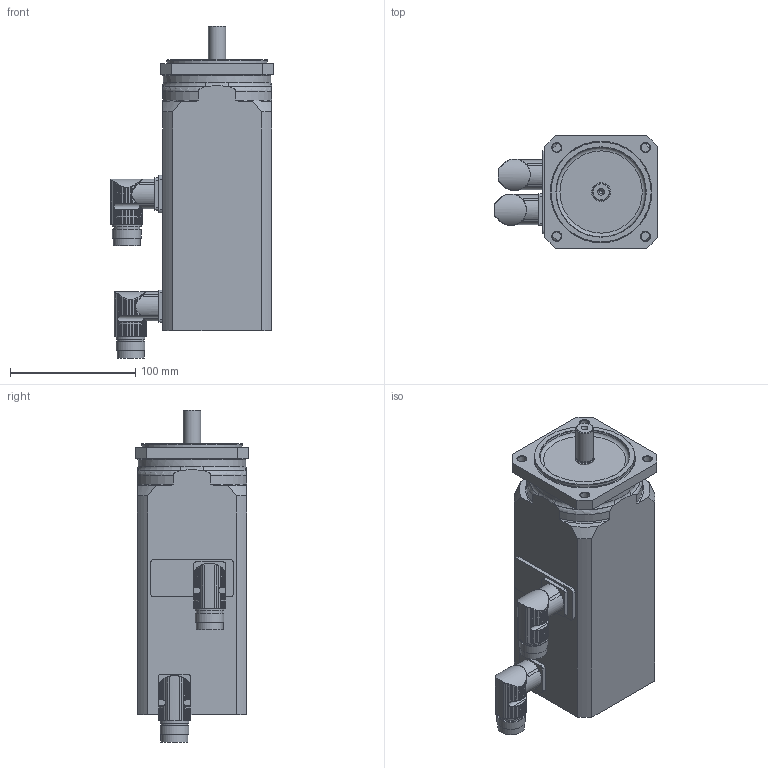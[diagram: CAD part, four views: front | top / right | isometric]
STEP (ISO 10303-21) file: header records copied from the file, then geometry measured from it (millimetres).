
FILE_DESCRIPTION(/* description */ (''),/* implementation_level */ '2;1');
FILE_NAME(/* name */ 'MR 7432-Ux-Nxxx-G##-A0D-MS',/* time_stamp */ '2007-07-13T09:50:00+01:00',/* author */ (''),/* organization */ ('ESR Pollmeier GmbH'),/* preprocessor_version */ 'ST-DEVELOPER v8',/* originating_system */ 'UNIGRAPHICS SOLUTIONS - UNIGRAPHICS 18.0',/* authorisation */ '');
FILE_SCHEMA (('AUTOMOTIVE_DESIGN { 1 2 10303 214 0 1 1 1 }'));
Length unit declared in the file: millimetre
Products named in the file (3): Winkelflanschdose_0; Rotor_SY3_0; MR7432-Ux-Nxxx-G##-A0D-MS_0
Assembly tree (3 placements, depth 2):
  MR7432-Ux-Nxxx-G##-A0D-MS_0
    Rotor_SY3_0
    Winkelflanschdose_0  x2
Bounding box: 129.99 x 90 x 264.65 mm (x, y, z)
Volume: 1634813 mm3; surface area: 106304.8 mm2
Topology: 4 solids, 4 shells, 418 faces, 1164 edges, 771 vertices
Faces by surface type: cylinder 311, plane 69, cone 17, torus 17, bspline 4
Full cylindrical faces by diameter (mm): 2.5 x1, 7 x4, 13.52 x1, 14 x1, 15 x1, 16 x2, 21 x2, 21.5 x2, 23 x4, 72 x1, 80 x1, 86 x1
Entity records: 8575 total; most frequent: CARTESIAN_POINT 2320, ORIENTED_EDGE 1310, DIRECTION 1230, EDGE_CURVE 655, AXIS2_PLACEMENT_3D 501, VERTEX_POINT 449, EDGE_LOOP 303, ADVANCED_FACE 254
